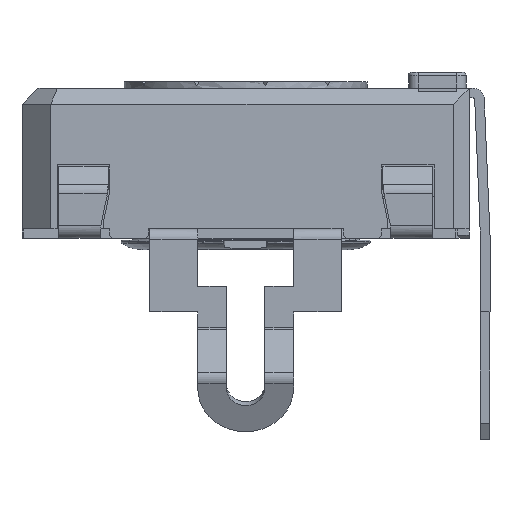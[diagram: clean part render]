
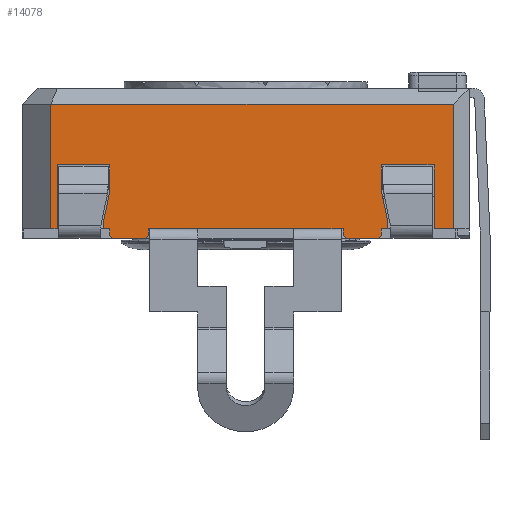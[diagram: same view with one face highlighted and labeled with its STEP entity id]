
A CAD part, left-side view. The second image highlights one B-rep face of the part: STEP entity #14078.
In plain terms, the highlighted planar face has unit normal (-1, 0, 0).
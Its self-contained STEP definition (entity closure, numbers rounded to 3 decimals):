
#480=PLANE('',#15054);
#1134=FACE_OUTER_BOUND('',#1876,.T.);
#1876=EDGE_LOOP('',(#11676,#11677,#11678,#11679,#11680,#11681,#11682,#11683,
#11684,#11685,#11686,#11687,#11688,#11689,#11690,#11691,#11692,#11693,#11694,
#11695,#11696,#11697,#11698,#11699,#11700,#11701,#11702,#11703));
#2441=LINE('',#20058,#4047);
#2446=LINE('',#20068,#4052);
#2451=LINE('',#20078,#4057);
#2562=LINE('',#20324,#4168);
#3057=LINE('',#21750,#4663);
#3062=LINE('',#21759,#4668);
#3065=LINE('',#21765,#4671);
#3069=LINE('',#21772,#4675);
#3093=LINE('',#21820,#4699);
#3096=LINE('',#21826,#4702);
#3101=LINE('',#21836,#4707);
#3104=LINE('',#21842,#4710);
#3107=LINE('',#21848,#4713);
#3122=LINE('',#21875,#4728);
#3134=LINE('',#21897,#4740);
#3136=LINE('',#21902,#4742);
#3171=LINE('',#22030,#4777);
#3174=LINE('',#22036,#4780);
#3179=LINE('',#22046,#4785);
#3181=LINE('',#22049,#4787);
#3287=LINE('',#22325,#4893);
#3289=LINE('',#22330,#4895);
#3292=LINE('',#22334,#4898);
#3294=LINE('',#22338,#4900);
#3297=LINE('',#22346,#4903);
#3298=LINE('',#22348,#4904);
#3299=LINE('',#22349,#4905);
#3300=LINE('',#22350,#4906);
#4047=VECTOR('',#16082,10.);
#4052=VECTOR('',#16087,10.);
#4057=VECTOR('',#16092,10.);
#4168=VECTOR('',#16301,10.);
#4663=VECTOR('',#17510,10.);
#4668=VECTOR('',#17517,10.);
#4671=VECTOR('',#17522,10.);
#4675=VECTOR('',#17528,10.);
#4699=VECTOR('',#17572,10.);
#4702=VECTOR('',#17577,10.);
#4707=VECTOR('',#17584,10.);
#4710=VECTOR('',#17589,10.);
#4713=VECTOR('',#17594,10.);
#4728=VECTOR('',#17611,10.);
#4740=VECTOR('',#17625,10.);
#4742=VECTOR('',#17629,10.);
#4777=VECTOR('',#17708,10.);
#4780=VECTOR('',#17713,10.);
#4785=VECTOR('',#17720,10.);
#4787=VECTOR('',#17724,10.);
#4893=VECTOR('',#17984,10.);
#4895=VECTOR('',#17988,10.);
#4898=VECTOR('',#17993,10.);
#4900=VECTOR('',#17999,10.);
#4903=VECTOR('',#18010,10.);
#4904=VECTOR('',#18011,10.);
#4905=VECTOR('',#18012,10.);
#4906=VECTOR('',#18013,10.);
#5998=VERTEX_POINT('',#20055);
#5999=VERTEX_POINT('',#20057);
#6003=VERTEX_POINT('',#20065);
#6004=VERTEX_POINT('',#20067);
#6008=VERTEX_POINT('',#20075);
#6009=VERTEX_POINT('',#20077);
#6094=VERTEX_POINT('',#20321);
#6095=VERTEX_POINT('',#20323);
#6512=VERTEX_POINT('',#21747);
#6513=VERTEX_POINT('',#21749);
#6517=VERTEX_POINT('',#21762);
#6520=VERTEX_POINT('',#21770);
#6533=VERTEX_POINT('',#21817);
#6535=VERTEX_POINT('',#21823);
#6539=VERTEX_POINT('',#21833);
#6541=VERTEX_POINT('',#21839);
#6544=VERTEX_POINT('',#21846);
#6555=VERTEX_POINT('',#21873);
#6564=VERTEX_POINT('',#21895);
#6566=VERTEX_POINT('',#21900);
#6590=VERTEX_POINT('',#22033);
#6594=VERTEX_POINT('',#22043);
#6661=VERTEX_POINT('',#22322);
#6662=VERTEX_POINT('',#22324);
#6663=VERTEX_POINT('',#22328);
#6664=VERTEX_POINT('',#22329);
#6665=VERTEX_POINT('',#22345);
#6666=VERTEX_POINT('',#22347);
#7403=EDGE_CURVE('',#5999,#5998,#2441,.T.);
#7408=EDGE_CURVE('',#6004,#6003,#2446,.T.);
#7413=EDGE_CURVE('',#6009,#6008,#2451,.T.);
#7538=EDGE_CURVE('',#6095,#6094,#2562,.T.);
#8187=EDGE_CURVE('',#6513,#6512,#3057,.T.);
#8192=EDGE_CURVE('',#6512,#6009,#3062,.T.);
#8195=EDGE_CURVE('',#6008,#6517,#3065,.T.);
#8199=EDGE_CURVE('',#6520,#6517,#3069,.T.);
#8224=EDGE_CURVE('',#5998,#6533,#3093,.T.);
#8227=EDGE_CURVE('',#6533,#6535,#3096,.T.);
#8232=EDGE_CURVE('',#6535,#6539,#3101,.T.);
#8235=EDGE_CURVE('',#6539,#6541,#3104,.T.);
#8238=EDGE_CURVE('',#6541,#6544,#3107,.T.);
#8253=EDGE_CURVE('',#6544,#6555,#3122,.T.);
#8265=EDGE_CURVE('',#6564,#6555,#3134,.T.);
#8267=EDGE_CURVE('',#6566,#6564,#3136,.T.);
#8314=EDGE_CURVE('',#6095,#6566,#3171,.T.);
#8317=EDGE_CURVE('',#6094,#6590,#3174,.T.);
#8322=EDGE_CURVE('',#6590,#6594,#3179,.T.);
#8324=EDGE_CURVE('',#6594,#6513,#3181,.T.);
#8446=EDGE_CURVE('',#6661,#6662,#3287,.T.);
#8448=EDGE_CURVE('',#6663,#6664,#3289,.T.);
#8451=EDGE_CURVE('',#5999,#6661,#3292,.T.);
#8453=EDGE_CURVE('',#6003,#6664,#3294,.T.);
#8456=EDGE_CURVE('',#6520,#6665,#3297,.T.);
#8457=EDGE_CURVE('',#6666,#6665,#3298,.T.);
#8458=EDGE_CURVE('',#6004,#6666,#3299,.T.);
#8459=EDGE_CURVE('',#6663,#6662,#3300,.T.);
#11676=ORIENTED_EDGE('',*,*,#8192,.T.);
#11677=ORIENTED_EDGE('',*,*,#7413,.T.);
#11678=ORIENTED_EDGE('',*,*,#8195,.T.);
#11679=ORIENTED_EDGE('',*,*,#8199,.F.);
#11680=ORIENTED_EDGE('',*,*,#8456,.T.);
#11681=ORIENTED_EDGE('',*,*,#8457,.F.);
#11682=ORIENTED_EDGE('',*,*,#8458,.F.);
#11683=ORIENTED_EDGE('',*,*,#7408,.T.);
#11684=ORIENTED_EDGE('',*,*,#8453,.T.);
#11685=ORIENTED_EDGE('',*,*,#8448,.F.);
#11686=ORIENTED_EDGE('',*,*,#8459,.T.);
#11687=ORIENTED_EDGE('',*,*,#8446,.F.);
#11688=ORIENTED_EDGE('',*,*,#8451,.F.);
#11689=ORIENTED_EDGE('',*,*,#7403,.T.);
#11690=ORIENTED_EDGE('',*,*,#8224,.T.);
#11691=ORIENTED_EDGE('',*,*,#8227,.T.);
#11692=ORIENTED_EDGE('',*,*,#8232,.T.);
#11693=ORIENTED_EDGE('',*,*,#8235,.T.);
#11694=ORIENTED_EDGE('',*,*,#8238,.T.);
#11695=ORIENTED_EDGE('',*,*,#8253,.T.);
#11696=ORIENTED_EDGE('',*,*,#8265,.F.);
#11697=ORIENTED_EDGE('',*,*,#8267,.F.);
#11698=ORIENTED_EDGE('',*,*,#8314,.F.);
#11699=ORIENTED_EDGE('',*,*,#7538,.T.);
#11700=ORIENTED_EDGE('',*,*,#8317,.T.);
#11701=ORIENTED_EDGE('',*,*,#8322,.T.);
#11702=ORIENTED_EDGE('',*,*,#8324,.T.);
#11703=ORIENTED_EDGE('',*,*,#8187,.T.);
#14078=ADVANCED_FACE('',(#1134),#480,.T.);
#15054=AXIS2_PLACEMENT_3D('',#22344,#18008,#18009);
#16082=DIRECTION('',(0.,-1.,0.));
#16087=DIRECTION('',(0.,-1.,0.));
#16092=DIRECTION('',(0.,-1.,0.));
#16301=DIRECTION('',(0.,-1.,0.));
#17510=DIRECTION('',(0.,0.208,-0.978));
#17517=DIRECTION('',(0.,0.,-1.));
#17522=DIRECTION('',(0.,0.,-1.));
#17528=DIRECTION('',(0.,0.707,0.707));
#17572=DIRECTION('',(0.,0.,1.));
#17577=DIRECTION('',(0.,0.208,0.978));
#17584=DIRECTION('',(0.,0.,1.));
#17589=DIRECTION('',(0.,-1.,0.));
#17594=DIRECTION('',(0.,0.,-1.));
#17611=DIRECTION('',(0.,-1.,0.));
#17625=DIRECTION('',(0.,0.,-1.));
#17629=DIRECTION('',(0.,-1.,0.));
#17708=DIRECTION('',(0.,0.,1.));
#17713=DIRECTION('',(0.,0.,1.));
#17720=DIRECTION('',(0.,-1.,0.));
#17724=DIRECTION('',(0.,0.,-1.));
#17984=DIRECTION('',(0.,0.707,-0.707));
#17988=DIRECTION('',(0.,0.707,0.707));
#17993=DIRECTION('',(0.,0.,-1.));
#17999=DIRECTION('',(0.,0.,-1.));
#18008=DIRECTION('center_axis',(-1.,0.,0.));
#18009=DIRECTION('ref_axis',(0.,0.,1.));
#18010=DIRECTION('',(0.,-1.,0.));
#18011=DIRECTION('',(0.,0.707,-0.707));
#18012=DIRECTION('',(0.,0.,-1.));
#18013=DIRECTION('',(0.,-1.,0.));
#20055=CARTESIAN_POINT('',(-14.467,-7.348,0.));
#20057=CARTESIAN_POINT('',(-14.467,-7.148,0.));
#20058=CARTESIAN_POINT('',(-14.467,4.102,0.));
#20065=CARTESIAN_POINT('',(-14.467,-5.948,0.));
#20067=CARTESIAN_POINT('',(-14.467,0.152,0.));
#20068=CARTESIAN_POINT('',(-14.467,4.102,0.));
#20075=CARTESIAN_POINT('',(-14.467,1.352,0.));
#20077=CARTESIAN_POINT('',(-14.467,1.552,0.));
#20078=CARTESIAN_POINT('',(-14.467,4.102,0.));
#20321=CARTESIAN_POINT('',(-14.467,3.002,0.));
#20323=CARTESIAN_POINT('',(-14.467,3.202,0.));
#20324=CARTESIAN_POINT('',(-14.467,-2.985,0.));
#21747=CARTESIAN_POINT('',(-14.467,1.552,0.235));
#21749=CARTESIAN_POINT('',(-14.467,1.352,1.176));
#21750=CARTESIAN_POINT('',(-14.467,1.228,1.757));
#21759=CARTESIAN_POINT('',(-14.467,1.552,0.));
#21762=CARTESIAN_POINT('',(-14.467,1.352,-0.2));
#21765=CARTESIAN_POINT('',(-14.467,1.352,0.));
#21770=CARTESIAN_POINT('',(-14.467,1.252,-0.3));
#21772=CARTESIAN_POINT('',(-14.467,-1.436,-2.988));
#21817=CARTESIAN_POINT('',(-14.467,-7.348,0.235));
#21820=CARTESIAN_POINT('',(-14.467,-7.348,0.118));
#21823=CARTESIAN_POINT('',(-14.467,-7.148,1.176));
#21826=CARTESIAN_POINT('',(-14.467,-7.453,-0.254));
#21833=CARTESIAN_POINT('',(-14.467,-7.148,2.));
#21836=CARTESIAN_POINT('',(-14.467,-7.148,0.588));
#21839=CARTESIAN_POINT('',(-14.467,-8.798,2.));
#21842=CARTESIAN_POINT('',(-14.467,-8.523,2.));
#21846=CARTESIAN_POINT('',(-14.467,-8.798,0.));
#21848=CARTESIAN_POINT('',(-14.467,-8.798,0.));
#21873=CARTESIAN_POINT('',(-14.467,-9.398,0.));
#21875=CARTESIAN_POINT('',(-14.467,-9.595,0.));
#21895=CARTESIAN_POINT('',(-14.467,-9.398,3.9));
#21897=CARTESIAN_POINT('',(-14.467,-9.398,0.));
#21900=CARTESIAN_POINT('',(-14.467,3.202,3.9));
#21902=CARTESIAN_POINT('',(-14.467,-6.398,3.9));
#22030=CARTESIAN_POINT('',(-14.467,3.202,0.));
#22033=CARTESIAN_POINT('',(-14.467,3.002,2.));
#22036=CARTESIAN_POINT('',(-14.467,3.002,0.));
#22043=CARTESIAN_POINT('',(-14.467,1.352,2.));
#22046=CARTESIAN_POINT('',(-14.467,-3.448,2.));
#22049=CARTESIAN_POINT('',(-14.467,1.352,1.));
#22322=CARTESIAN_POINT('',(-14.467,-7.148,-0.2));
#22324=CARTESIAN_POINT('',(-14.467,-7.048,-0.3));
#22325=CARTESIAN_POINT('',(-14.467,-7.861,0.513));
#22328=CARTESIAN_POINT('',(-14.467,-6.048,-0.3));
#22329=CARTESIAN_POINT('',(-14.467,-5.948,-0.2));
#22330=CARTESIAN_POINT('',(-14.467,-6.911,-1.163));
#22334=CARTESIAN_POINT('',(-14.467,-7.148,0.));
#22338=CARTESIAN_POINT('',(-14.467,-5.948,0.));
#22344=CARTESIAN_POINT('Origin',(-14.467,-9.898,0.));
#22345=CARTESIAN_POINT('',(-14.467,0.252,-0.3));
#22346=CARTESIAN_POINT('',(-14.467,0.152,-0.3));
#22347=CARTESIAN_POINT('',(-14.467,0.152,-0.2));
#22348=CARTESIAN_POINT('',(-14.467,-2.386,2.338));
#22349=CARTESIAN_POINT('',(-14.467,0.152,0.));
#22350=CARTESIAN_POINT('',(-14.467,-7.148,-0.3));
